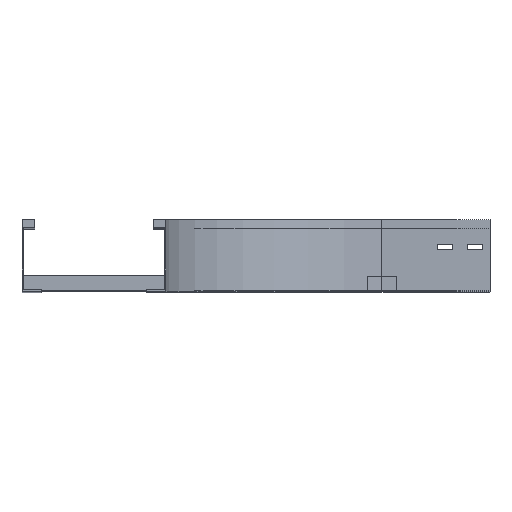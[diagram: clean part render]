
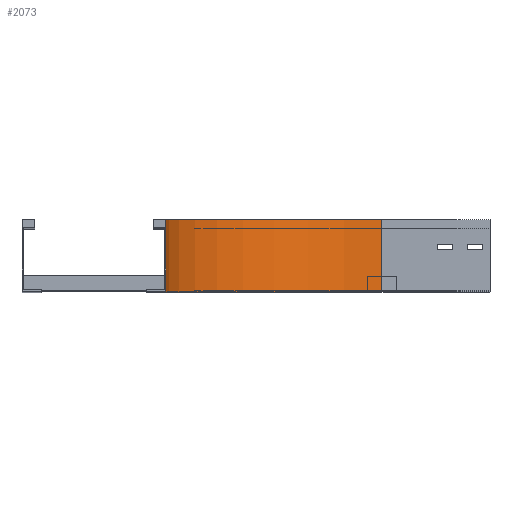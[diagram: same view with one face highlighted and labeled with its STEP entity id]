
A CAD part, top view. The second image highlights one B-rep face of the part: STEP entity #2073.
In plain terms, the highlighted cylindrical face has radius 300 mm (diameter 600 mm), a partial arc.
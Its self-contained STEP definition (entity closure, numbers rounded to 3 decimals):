
#154 = VERTEX_POINT ( 'NONE', #2409 ) ;
#180 = FACE_OUTER_BOUND ( 'NONE', #3328, .T. ) ;
#281 = CARTESIAN_POINT ( 'NONE',  ( 300., 100., -450. ) ) ;
#318 = VECTOR ( 'NONE', #319, 1000. ) ;
#319 = DIRECTION ( 'NONE',  ( 0., 1., 0. ) ) ;
#343 = EDGE_CURVE ( 'NONE', #1218, #625, #784, .T. ) ;
#486 = EDGE_CURVE ( 'NONE', #154, #1915, #1602, .T. ) ;
#615 = CARTESIAN_POINT ( 'NONE',  ( 300., 0., -450. ) ) ;
#625 = VERTEX_POINT ( 'NONE', #281 ) ;
#648 = ORIENTED_EDGE ( 'NONE', *, *, #2331, .T. ) ;
#716 = VECTOR ( 'NONE', #2969, 1000. ) ;
#784 = CIRCLE ( 'NONE', #2964, 300. ) ;
#903 = LINE ( 'NONE', #3026, #716 ) ;
#1195 = AXIS2_PLACEMENT_3D ( 'NONE', #3108, #2260, #1673 ) ;
#1218 = VERTEX_POINT ( 'NONE', #2424 ) ;
#1229 = EDGE_CURVE ( 'NONE', #154, #1218, #903, .T. ) ;
#1602 = CIRCLE ( 'NONE', #2599, 300. ) ;
#1673 = DIRECTION ( 'NONE',  ( 0., 0., -1. ) ) ;
#1686 = DIRECTION ( 'NONE',  ( -1., 0., 0. ) ) ;
#1915 = VERTEX_POINT ( 'NONE', #2977 ) ;
#1981 = DIRECTION ( 'NONE',  ( 0., -1., 0. ) ) ;
#2073 = ADVANCED_FACE ( 'NONE', ( #180 ), #2199, .F. ) ;
#2199 = CYLINDRICAL_SURFACE ( 'NONE', #1195, 300. ) ;
#2260 = DIRECTION ( 'NONE',  ( 0., -1., 0. ) ) ;
#2331 = EDGE_CURVE ( 'NONE', #1915, #625, #3290, .T. ) ;
#2409 = CARTESIAN_POINT ( 'NONE',  ( 0., 0., -150. ) ) ;
#2424 = CARTESIAN_POINT ( 'NONE',  ( 0., 100., -150. ) ) ;
#2509 = DIRECTION ( 'NONE',  ( 0., -1., 0. ) ) ;
#2599 = AXIS2_PLACEMENT_3D ( 'NONE', #3432, #2509, #3412 ) ;
#2964 = AXIS2_PLACEMENT_3D ( 'NONE', #3462, #1981, #1686 ) ;
#2969 = DIRECTION ( 'NONE',  ( 0., 1., 0. ) ) ;
#2977 = CARTESIAN_POINT ( 'NONE',  ( 300., 0., -450. ) ) ;
#3026 = CARTESIAN_POINT ( 'NONE',  ( 0., 0., -150. ) ) ;
#3108 = CARTESIAN_POINT ( 'NONE',  ( 300., 0., -150. ) ) ;
#3290 = LINE ( 'NONE', #615, #318 ) ;
#3328 = EDGE_LOOP ( 'NONE', ( #3845, #3741, #3798, #648 ) ) ;
#3412 = DIRECTION ( 'NONE',  ( -1., 0., 0. ) ) ;
#3432 = CARTESIAN_POINT ( 'NONE',  ( 300., 0., -150. ) ) ;
#3462 = CARTESIAN_POINT ( 'NONE',  ( 300., 100., -150. ) ) ;
#3741 = ORIENTED_EDGE ( 'NONE', *, *, #1229, .F. ) ;
#3798 = ORIENTED_EDGE ( 'NONE', *, *, #486, .T. ) ;
#3845 = ORIENTED_EDGE ( 'NONE', *, *, #343, .F. ) ;
